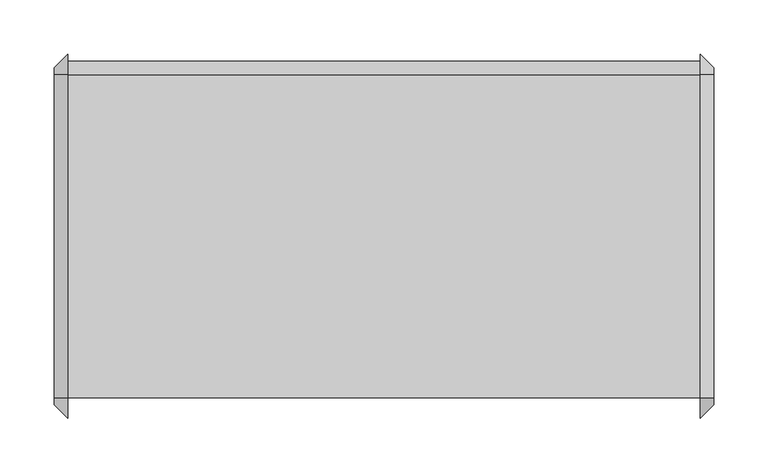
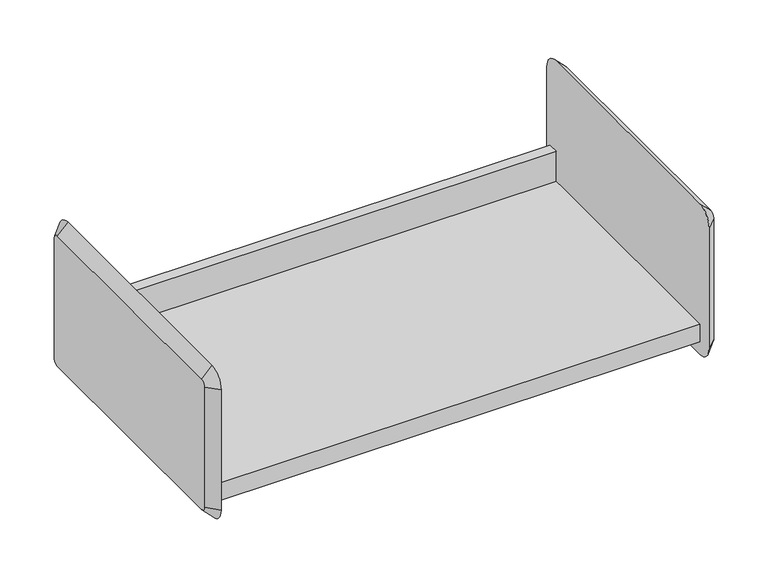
"""IFC4 building model written with IfcOpenShell, lengths in millimetres: furniture geometry."""

from ifc_helpers import new_model, si_unit, frame, origin, place, context, project, spatial, polyline, circle_curve, outline, extrude, source, transform, mapped, element, save
from ifc_brep_helpers import plane_surface, revolved_surface, advanced_brep


def furniture_9dcdb2d1(model_context):
    return source(origin(), model_context, "Body", "SolidModel", [
        extrude(outline(polyline([(-136.525, 1676.4), (161.925, 1676.4), (161.925, 1714.5), (174.625, 1714.5), (174.625, 1711.325), (165.1, 1711.325), (165.1, 1673.225), (-133.35, 1673.225), (-133.35, 1654.175), (-136.525, 1654.175), (-136.525, 1676.4)])), frame((-416.0420045, 0.0, 0.0), z_axis=(1.0, 0.0, 0.0), x_axis=(0.0, 1.0, 0.0)), (0.0, 0.0, 1.0), 584.2),
        advanced_brep(
        [(180.8579955, 161.925, 1816.1), (180.8579955, -136.525, 1816.1), (180.8579955, -142.875, 1809.75), (180.8579955, -142.875, 1657.35), (180.8579955, -136.525, 1651.0), (180.8579955, 161.925, 1651.0), (180.8579955, 168.275, 1657.35), (180.8579955, 168.275, 1809.75), (168.1579955, 161.925, 1828.8), (168.1579955, 180.975, 1809.75), (168.1579955, 180.975, 1657.35), (168.1579955, 161.925, 1638.3), (168.1579955, -136.525, 1638.3), (168.1579955, -155.575, 1657.35), (168.1579955, -155.575, 1809.75), (168.1579955, -136.525, 1828.8)],
        [
            (0, 1),
            (1, 2, circle_curve(frame((180.8579955, -136.525, 1809.75), z_axis=(1.0, 2.0730084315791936e-12, -2.1742607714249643e-12), x_axis=(2.1742640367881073e-12, 0.0, 1.0)), 6.35)),
            (2, 3),
            (3, 4, circle_curve(frame((180.8579955, -136.525, 1657.35), z_axis=(1.0, 2.059685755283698e-12, 2.025046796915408e-12), x_axis=(2.059647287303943e-12, -1.0, 0.0)), 6.35)),
            (4, 5),
            (5, 6, circle_curve(frame((180.8579955, 161.925, 1657.35), z_axis=(1.0, 2.088995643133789e-12, -2.088995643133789e-12), x_axis=(-2.0890080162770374e-12, 0.0, -1.0)), 6.35)),
            (6, 7),
            (7, 0, circle_curve(frame((180.8579955, 161.925, 1809.75), z_axis=(1.0, 2.075672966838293e-12, 1.9610979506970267e-12), x_axis=(-2.075662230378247e-12, 1.0, 0.0)), 6.35)),
            (8, 9, circle_curve(frame((168.1579955, 161.925, 1809.75), z_axis=(-1.0, -2.075672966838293e-12, -1.9610979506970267e-12), x_axis=(-2.075662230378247e-12, 1.0, 0.0)), 19.05)),
            (9, 10),
            (10, 11, circle_curve(frame((168.1579955, 161.925, 1657.35), z_axis=(-1.0, -2.088995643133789e-12, 2.088995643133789e-12), x_axis=(-2.0890080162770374e-12, 0.0, -1.0)), 19.05)),
            (11, 12),
            (12, 13, circle_curve(frame((168.1579955, -136.525, 1657.35), z_axis=(-1.0, -2.059685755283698e-12, -2.025046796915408e-12), x_axis=(2.059647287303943e-12, -1.0, 0.0)), 19.05)),
            (13, 14),
            (14, 15, circle_curve(frame((168.1579955, -136.525, 1809.75), z_axis=(-1.0, -2.0730084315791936e-12, 2.1742607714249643e-12), x_axis=(2.1742640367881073e-12, 0.0, 1.0)), 19.05)),
            (15, 8),
            (15, 1),
            (0, 8),
            (14, 2),
            (13, 3),
            (12, 4),
            (11, 5),
            (10, 6),
            (9, 7),
        ],
        [
            plane_surface(frame((180.8579955, 12.7, 1733.55), z_axis=(1.0, 0.0, 0.0), x_axis=(0.0, -1.0, 0.0))),
            plane_surface(frame((168.1579955, 12.7, 1733.55), z_axis=(-1.0, 0.0, 0.0), x_axis=(0.0, -1.0, 0.0))),
            plane_surface(frame((168.1579955, 12.7, 1828.8), z_axis=(0.7071067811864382, 0.0, 0.7071067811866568), x_axis=(0.0, -1.0, 0.0))),
            revolved_surface(polyline([(180.8579955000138, -136.525, 1816.0999999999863), (168.1579955, -136.525, 1828.8)]), (187.2079955, -136.525, 1809.75), (-1.0, -2.0730084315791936e-12, 2.1742607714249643e-12)),
            plane_surface(frame((168.1579955, -155.575, 1733.55), z_axis=(0.707106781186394, -0.7071067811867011, 0.0), x_axis=(0.0, 0.0, -1.0))),
            revolved_surface(polyline([(180.85799550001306, -142.87499999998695, 1657.35), (168.1579955, -155.575, 1657.35)]), (187.2079955, -136.525, 1657.35), (-1.0, -2.059685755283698e-12, -2.025046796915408e-12)),
            plane_surface(frame((168.1579955, 12.7, 1638.3), z_axis=(0.7071067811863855, 0.0, -0.7071067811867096), x_axis=(0.0, 1.0, 0.0))),
            revolved_surface(polyline([(180.8579955, 161.925, 1651.0), (168.1579954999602, 161.925, 1638.2999999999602)]), (187.2079955, 161.925, 1657.35), (-1.0, -2.088995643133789e-12, 2.088995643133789e-12)),
            plane_surface(frame((168.1579955, 180.975, 1733.55), z_axis=(0.707106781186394, 0.7071067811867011, 0.0), x_axis=(0.0, 0.0, 1.0))),
            revolved_surface(polyline([(180.8579955, 168.27500000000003, 1809.75), (168.15799549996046, 180.97500000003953, 1809.75)]), (187.2079955, 161.925, 1809.75), (-1.0, -2.075672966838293e-12, -1.9610979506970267e-12)),
        ],
        [
            (0, [[1, 2, 3, 4, 5, 6, 7, 8]]),
            (1, [[9, 10, 11, 12, 13, 14, 15, 16]]),
            (2, [[-16, 17, -1, 18]]),
            (3, [[-15, 19, -2, -17]]),
            (4, [[-14, 20, -3, -19]]),
            (5, [[-13, 21, -4, -20]]),
            (6, [[-12, 22, -5, -21]]),
            (7, [[-11, 23, -6, -22]]),
            (8, [[-10, 24, -7, -23]]),
            (9, [[-9, -18, -8, -24]]),
        ],
    ),
        advanced_brep(
        [(-428.7420045, -136.525, 1816.1), (-428.7420045, 161.925, 1816.1), (-428.7420045, 168.275, 1809.75), (-428.7420045, 168.275, 1657.35), (-428.7420045, 161.925, 1651.0), (-428.7420045, -136.525, 1651.0), (-428.7420045, -142.875, 1657.35), (-428.7420045, -142.875, 1809.75), (-416.0420045, -136.525, 1828.8), (-416.0420045, -155.575, 1809.75), (-416.0420045, -155.575, 1657.35), (-416.0420045, -136.525, 1638.3), (-416.0420045, 161.925, 1638.3), (-416.0420045, 180.975, 1657.35), (-416.0420045, 180.975, 1809.75), (-416.0420045, 161.925, 1828.8)],
        [
            (0, 1),
            (1, 2, circle_curve(frame((-428.7420045, 161.925, 1809.75), z_axis=(-1.0, 0.0, 0.0), x_axis=(0.0, 0.0, 1.0)), 6.35)),
            (2, 3),
            (3, 4, circle_curve(frame((-428.7420045, 161.925, 1657.35), z_axis=(-1.0, 0.0, 0.0), x_axis=(0.0, 1.0, 0.0)), 6.35)),
            (4, 5),
            (5, 6, circle_curve(frame((-428.7420045, -136.525, 1657.35), z_axis=(-1.0, 0.0, 0.0), x_axis=(0.0, 0.0, -1.0)), 6.35)),
            (6, 7),
            (7, 0, circle_curve(frame((-428.7420045, -136.525, 1809.75), z_axis=(-1.0, 0.0, 0.0), x_axis=(0.0, -1.0, 0.0)), 6.35)),
            (8, 9, circle_curve(frame((-416.0420045, -136.525, 1809.75), z_axis=(1.0, 0.0, 0.0), x_axis=(0.0, -1.0, 0.0)), 19.05)),
            (9, 10),
            (10, 11, circle_curve(frame((-416.0420045, -136.525, 1657.35), z_axis=(1.0, 0.0, 0.0), x_axis=(0.0, 0.0, -1.0)), 19.05)),
            (11, 12),
            (12, 13, circle_curve(frame((-416.0420045, 161.925, 1657.35), z_axis=(1.0, 0.0, 0.0), x_axis=(0.0, 1.0, 0.0)), 19.05)),
            (13, 14),
            (14, 15, circle_curve(frame((-416.0420045, 161.925, 1809.75), z_axis=(1.0, 0.0, 0.0), x_axis=(0.0, 0.0, 1.0)), 19.05)),
            (15, 8),
            (15, 1),
            (0, 8),
            (14, 2),
            (13, 3),
            (12, 4),
            (11, 5),
            (10, 6),
            (9, 7),
        ],
        [
            plane_surface(frame((-428.7420045, 12.7, 1733.55), z_axis=(-1.0, 0.0, 0.0), x_axis=(0.0, -1.0, 0.0))),
            plane_surface(frame((-416.0420045, 12.7, 1733.55), z_axis=(1.0, 0.0, 0.0), x_axis=(0.0, -1.0, 0.0))),
            plane_surface(frame((-416.0420045, 12.7, 1828.8), z_axis=(-0.7071067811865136, 0.0, 0.7071067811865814), x_axis=(0.0, 1.0, 0.0))),
            revolved_surface(polyline([(-428.7420045, 161.925, 1816.1), (-416.0420045, 161.925, 1828.8)]), (-435.0920045, 161.925, 1809.75), (1.0, 0.0, 0.0)),
            plane_surface(frame((-416.0420045, 180.975, 1733.55), z_axis=(-0.7071067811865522, 0.7071067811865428, 0.0), x_axis=(0.0, 0.0, -1.0))),
            revolved_surface(polyline([(-428.7420045, 168.27499999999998, 1657.35), (-416.0420045, 180.975, 1657.35)]), (-435.0920045, 161.925, 1657.35), (1.0, 0.0, 0.0)),
            plane_surface(frame((-416.0420045, 12.7, 1638.3), z_axis=(-0.7071067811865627, 0.0, -0.7071067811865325), x_axis=(0.0, -1.0, 0.0))),
            revolved_surface(polyline([(-428.7420045, -136.525, 1651.0), (-416.0420045, -136.525, 1638.3)]), (-435.0920045, -136.525, 1657.35), (1.0, 0.0, 0.0)),
            plane_surface(frame((-416.0420045, -155.575, 1733.55), z_axis=(-0.7071067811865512, -0.7071067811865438, 0.0), x_axis=(0.0, 0.0, 1.0))),
            revolved_surface(polyline([(-428.7420045, -142.87499999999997, 1809.75), (-416.0420045, -155.575, 1809.75)]), (-435.0920045, -136.525, 1809.75), (1.0, 0.0, 0.0)),
        ],
        [
            (0, [[1, 2, 3, 4, 5, 6, 7, 8]]),
            (1, [[9, 10, 11, 12, 13, 14, 15, 16]]),
            (2, [[-16, 17, -1, 18]]),
            (3, [[-15, 19, -2, -17]]),
            (4, [[-14, 20, -3, -19]]),
            (5, [[-13, 21, -4, -20]]),
            (6, [[-12, 22, -5, -21]]),
            (7, [[-11, 23, -6, -22]]),
            (8, [[-10, 24, -7, -23]]),
            (9, [[-9, -18, -8, -24]]),
        ],
    ),
    ])


if __name__ == "__main__":
    model = new_model("IFC4")
    model_context = context("Model", 3, world=origin())
    ifc_project = project(units=[si_unit("LENGTHUNIT", "METRE", prefix="MILLI")], contexts=[model_context])
    site = spatial("IfcSite", under=ifc_project)
    building = spatial("IfcBuilding", under=site)
    placement = place(None, origin())
    furniture_shape = furniture_9dcdb2d1(model_context)
    element("IfcFurniture", 1, ObjectType="HermanMiller_ActionOffice_A3220_B-StyleStorageDisplay : Shelf 13\"D x 24\"W", at=placement, inside=building, context=model_context, shape_type="MappedRepresentation", body=[
        mapped(furniture_shape, transform((0.0, 0.0, 0.0), x_axis=(1.0, 0.0, 0.0), y_axis=(0.0, 1.0, 0.0), z_axis=(0.0, 0.0, 1.0))),
    ])
    save(model, "model.ifc")
